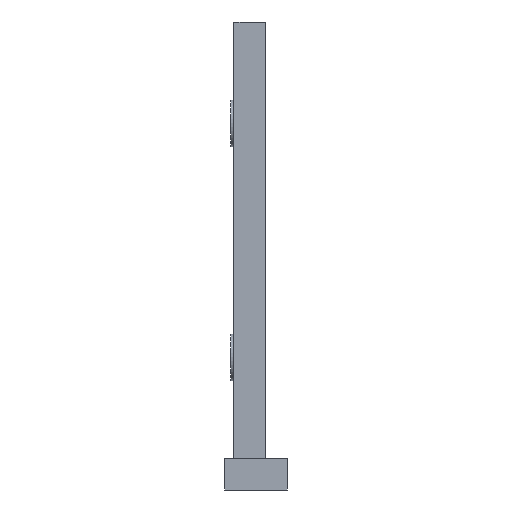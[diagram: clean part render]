
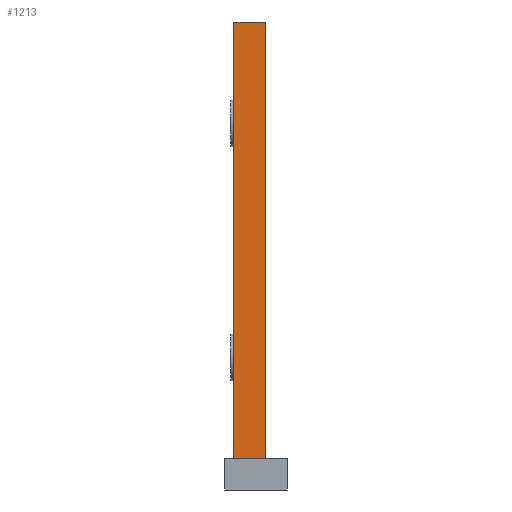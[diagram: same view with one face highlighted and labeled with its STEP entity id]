
A CAD part, front view. The second image highlights one B-rep face of the part: STEP entity #1213.
In plain terms, the highlighted planar face has unit normal (0, -1, 0).
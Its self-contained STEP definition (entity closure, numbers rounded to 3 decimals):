
#272 = PLANE('',#273);
#273 = AXIS2_PLACEMENT_3D('',#274,#275,#276);
#274 = CARTESIAN_POINT('',(44.,5.,10.));
#275 = DIRECTION('',(0.,0.,1.));
#276 = DIRECTION('',(1.,0.,0.));
#529 = VERTEX_POINT('',#530);
#530 = CARTESIAN_POINT('',(45.175,16.,10.));
#543 = PLANE('',#544);
#544 = AXIS2_PLACEMENT_3D('',#545,#546,#547);
#545 = CARTESIAN_POINT('',(45.175,16.,6.));
#546 = DIRECTION('',(1.,0.,0.));
#547 = DIRECTION('',(0.,0.,1.));
#581 = VERTEX_POINT('',#582);
#582 = CARTESIAN_POINT('',(49.175,16.,10.));
#595 = PLANE('',#596);
#596 = AXIS2_PLACEMENT_3D('',#597,#598,#599);
#597 = CARTESIAN_POINT('',(49.175,16.,6.));
#598 = DIRECTION('',(1.,0.,0.));
#599 = DIRECTION('',(0.,0.,1.));
#606 = EDGE_CURVE('',#529,#581,#607,.T.);
#607 = SURFACE_CURVE('',#608,(#612,#618),.PCURVE_S1.);
#608 = LINE('',#609,#610);
#609 = CARTESIAN_POINT('',(44.588,16.,10.));
#610 = VECTOR('',#611,1.);
#611 = DIRECTION('',(1.,0.,0.));
#612 = PCURVE('',#272,#613);
#613 = DEFINITIONAL_REPRESENTATION('',(#614),#617);
#614 = B_SPLINE_CURVE_WITH_KNOTS('',1,(#615,#616),.UNSPECIFIED.,.F.,.F.,
  (2,2),(0.588,4.588),.PIECEWISE_BEZIER_KNOTS.);
#615 = CARTESIAN_POINT('',(1.175,11.));
#616 = CARTESIAN_POINT('',(5.175,11.));
#617 = ( GEOMETRIC_REPRESENTATION_CONTEXT(2) 
PARAMETRIC_REPRESENTATION_CONTEXT() REPRESENTATION_CONTEXT('2D SPACE',''
  ) );
#618 = PCURVE('',#619,#624);
#619 = PLANE('',#620);
#620 = AXIS2_PLACEMENT_3D('',#621,#622,#623);
#621 = CARTESIAN_POINT('',(45.175,16.,6.));
#622 = DIRECTION('',(0.,1.,0.));
#623 = DIRECTION('',(0.,0.,1.));
#624 = DEFINITIONAL_REPRESENTATION('',(#625),#628);
#625 = B_SPLINE_CURVE_WITH_KNOTS('',1,(#626,#627),.UNSPECIFIED.,.F.,.F.,
  (2,2),(0.588,4.588),.PIECEWISE_BEZIER_KNOTS.);
#626 = CARTESIAN_POINT('',(4.,0.));
#627 = CARTESIAN_POINT('',(4.,4.));
#628 = ( GEOMETRIC_REPRESENTATION_CONTEXT(2) 
PARAMETRIC_REPRESENTATION_CONTEXT() REPRESENTATION_CONTEXT('2D SPACE',''
  ) );
#639 = EDGE_CURVE('',#529,#640,#642,.T.);
#640 = VERTEX_POINT('',#641);
#641 = CARTESIAN_POINT('',(45.175,16.,66.));
#642 = SURFACE_CURVE('',#643,(#647,#654),.PCURVE_S1.);
#643 = LINE('',#644,#645);
#644 = CARTESIAN_POINT('',(45.175,16.,6.));
#645 = VECTOR('',#646,1.);
#646 = DIRECTION('',(0.,0.,1.));
#647 = PCURVE('',#543,#648);
#648 = DEFINITIONAL_REPRESENTATION('',(#649),#653);
#649 = LINE('',#650,#651);
#650 = CARTESIAN_POINT('',(0.,0.));
#651 = VECTOR('',#652,1.);
#652 = DIRECTION('',(1.,0.));
#653 = ( GEOMETRIC_REPRESENTATION_CONTEXT(2) 
PARAMETRIC_REPRESENTATION_CONTEXT() REPRESENTATION_CONTEXT('2D SPACE',''
  ) );
#654 = PCURVE('',#619,#655);
#655 = DEFINITIONAL_REPRESENTATION('',(#656),#660);
#656 = LINE('',#657,#658);
#657 = CARTESIAN_POINT('',(0.,0.));
#658 = VECTOR('',#659,1.);
#659 = DIRECTION('',(1.,0.));
#660 = ( GEOMETRIC_REPRESENTATION_CONTEXT(2) 
PARAMETRIC_REPRESENTATION_CONTEXT() REPRESENTATION_CONTEXT('2D SPACE',''
  ) );
#700 = PLANE('',#701);
#701 = AXIS2_PLACEMENT_3D('',#702,#703,#704);
#702 = CARTESIAN_POINT('',(45.175,16.,66.));
#703 = DIRECTION('',(0.,0.,1.));
#704 = DIRECTION('',(1.,0.,0.));
#1213 = ADVANCED_FACE('',(#1214),#619,.F.);
#1214 = FACE_BOUND('',#1215,.F.);
#1215 = EDGE_LOOP('',(#1216,#1239,#1240,#1241));
#1216 = ORIENTED_EDGE('',*,*,#1217,.F.);
#1217 = EDGE_CURVE('',#581,#1218,#1220,.T.);
#1218 = VERTEX_POINT('',#1219);
#1219 = CARTESIAN_POINT('',(49.175,16.,66.));
#1220 = SURFACE_CURVE('',#1221,(#1225,#1232),.PCURVE_S1.);
#1221 = LINE('',#1222,#1223);
#1222 = CARTESIAN_POINT('',(49.175,16.,6.));
#1223 = VECTOR('',#1224,1.);
#1224 = DIRECTION('',(0.,0.,1.));
#1225 = PCURVE('',#619,#1226);
#1226 = DEFINITIONAL_REPRESENTATION('',(#1227),#1231);
#1227 = LINE('',#1228,#1229);
#1228 = CARTESIAN_POINT('',(0.,4.));
#1229 = VECTOR('',#1230,1.);
#1230 = DIRECTION('',(1.,0.));
#1231 = ( GEOMETRIC_REPRESENTATION_CONTEXT(2) 
PARAMETRIC_REPRESENTATION_CONTEXT() REPRESENTATION_CONTEXT('2D SPACE',''
  ) );
#1232 = PCURVE('',#595,#1233);
#1233 = DEFINITIONAL_REPRESENTATION('',(#1234),#1238);
#1234 = LINE('',#1235,#1236);
#1235 = CARTESIAN_POINT('',(0.,0.));
#1236 = VECTOR('',#1237,1.);
#1237 = DIRECTION('',(1.,0.));
#1238 = ( GEOMETRIC_REPRESENTATION_CONTEXT(2) 
PARAMETRIC_REPRESENTATION_CONTEXT() REPRESENTATION_CONTEXT('2D SPACE',''
  ) );
#1239 = ORIENTED_EDGE('',*,*,#606,.F.);
#1240 = ORIENTED_EDGE('',*,*,#639,.T.);
#1241 = ORIENTED_EDGE('',*,*,#1242,.T.);
#1242 = EDGE_CURVE('',#640,#1218,#1243,.T.);
#1243 = SURFACE_CURVE('',#1244,(#1248,#1255),.PCURVE_S1.);
#1244 = LINE('',#1245,#1246);
#1245 = CARTESIAN_POINT('',(45.175,16.,66.));
#1246 = VECTOR('',#1247,1.);
#1247 = DIRECTION('',(1.,0.,0.));
#1248 = PCURVE('',#619,#1249);
#1249 = DEFINITIONAL_REPRESENTATION('',(#1250),#1254);
#1250 = LINE('',#1251,#1252);
#1251 = CARTESIAN_POINT('',(60.,0.));
#1252 = VECTOR('',#1253,1.);
#1253 = DIRECTION('',(0.,1.));
#1254 = ( GEOMETRIC_REPRESENTATION_CONTEXT(2) 
PARAMETRIC_REPRESENTATION_CONTEXT() REPRESENTATION_CONTEXT('2D SPACE',''
  ) );
#1255 = PCURVE('',#700,#1256);
#1256 = DEFINITIONAL_REPRESENTATION('',(#1257),#1261);
#1257 = LINE('',#1258,#1259);
#1258 = CARTESIAN_POINT('',(0.,0.));
#1259 = VECTOR('',#1260,1.);
#1260 = DIRECTION('',(1.,0.));
#1261 = ( GEOMETRIC_REPRESENTATION_CONTEXT(2) 
PARAMETRIC_REPRESENTATION_CONTEXT() REPRESENTATION_CONTEXT('2D SPACE',''
  ) );
